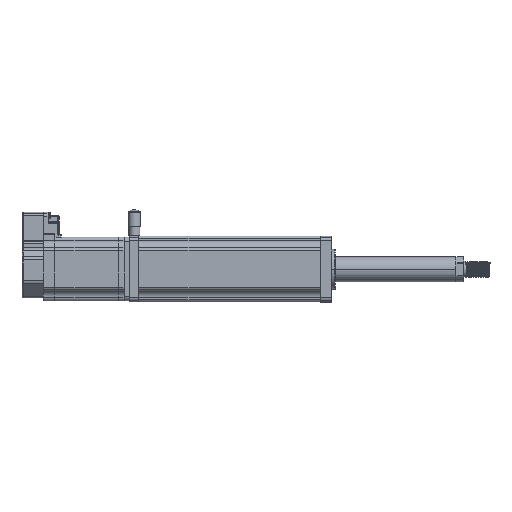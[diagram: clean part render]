
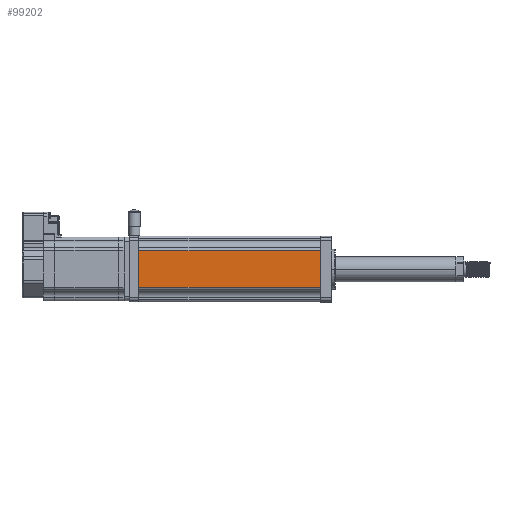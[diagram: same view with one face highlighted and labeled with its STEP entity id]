
A CAD part, front view. The second image highlights one B-rep face of the part: STEP entity #99202.
In plain terms, the highlighted planar face has unit normal (0, -1, 0).
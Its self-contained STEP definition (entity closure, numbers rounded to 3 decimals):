
#97323 = PLANE('',#97324);
#97324 = AXIS2_PLACEMENT_3D('',#97325,#97326,#97327);
#97325 = CARTESIAN_POINT('',(604.,20.655,
    145.431));
#97326 = DIRECTION('',(-1.,0.,0.));
#97327 = DIRECTION('',(0.,-1.,0.));
#97384 = PLANE('',#97385);
#97385 = AXIS2_PLACEMENT_3D('',#97386,#97387,#97388);
#97386 = CARTESIAN_POINT('',(764.,20.655,
    145.431));
#97387 = DIRECTION('',(-1.,0.,0.));
#97388 = DIRECTION('',(0.,-1.,0.));
#97766 = VERTEX_POINT('',#97767);
#97767 = CARTESIAN_POINT('',(764.,-37.345,
    158.431));
#97775 = CYLINDRICAL_SURFACE('',#97776,2.5);
#97776 = AXIS2_PLACEMENT_3D('',#97777,#97778,#97779);
#97777 = CARTESIAN_POINT('',(604.,-34.845,
    158.431));
#97778 = DIRECTION('',(-1.,0.,0.));
#97779 = DIRECTION('',(0.,-1.,0.));
#97794 = EDGE_CURVE('',#97766,#97795,#97797,.T.);
#97795 = VERTEX_POINT('',#97796);
#97796 = CARTESIAN_POINT('',(604.,-37.345,
    158.431));
#97797 = SURFACE_CURVE('',#97798,(#97802,#97809),.PCURVE_S1.);
#97798 = LINE('',#97799,#97800);
#97799 = CARTESIAN_POINT('',(684.,-37.345,
    158.431));
#97800 = VECTOR('',#97801,1.);
#97801 = DIRECTION('',(-1.,0.,0.));
#97802 = PCURVE('',#97775,#97803);
#97803 = DEFINITIONAL_REPRESENTATION('',(#97804),#97808);
#97804 = LINE('',#97805,#97806);
#97805 = CARTESIAN_POINT('',(6.283,-80.));
#97806 = VECTOR('',#97807,1.);
#97807 = DIRECTION('',(0.,1.));
#97808 = ( GEOMETRIC_REPRESENTATION_CONTEXT(2) 
PARAMETRIC_REPRESENTATION_CONTEXT() REPRESENTATION_CONTEXT('2D SPACE',''
  ) );
#97809 = PCURVE('',#97810,#97815);
#97810 = PLANE('',#97811);
#97811 = AXIS2_PLACEMENT_3D('',#97812,#97813,#97814);
#97812 = CARTESIAN_POINT('',(764.,-37.345,
    158.431));
#97813 = DIRECTION('',(0.,1.,0.));
#97814 = DIRECTION('',(-1.,0.,0.));
#97815 = DEFINITIONAL_REPRESENTATION('',(#97816),#97820);
#97816 = LINE('',#97817,#97818);
#97817 = CARTESIAN_POINT('',(80.,0.));
#97818 = VECTOR('',#97819,1.);
#97819 = DIRECTION('',(1.,0.));
#97820 = ( GEOMETRIC_REPRESENTATION_CONTEXT(2) 
PARAMETRIC_REPRESENTATION_CONTEXT() REPRESENTATION_CONTEXT('2D SPACE',''
  ) );
#97882 = VERTEX_POINT('',#97883);
#97883 = CARTESIAN_POINT('',(604.,-37.345,
    190.431));
#97891 = CYLINDRICAL_SURFACE('',#97892,2.5);
#97892 = AXIS2_PLACEMENT_3D('',#97893,#97894,#97895);
#97893 = CARTESIAN_POINT('',(764.,-34.845,
    190.431));
#97894 = DIRECTION('',(1.,0.,0.));
#97895 = DIRECTION('',(0.,-1.,0.));
#97914 = EDGE_CURVE('',#97882,#97915,#97917,.T.);
#97915 = VERTEX_POINT('',#97916);
#97916 = CARTESIAN_POINT('',(764.,-37.345,
    190.431));
#97917 = SURFACE_CURVE('',#97918,(#97922,#97929),.PCURVE_S1.);
#97918 = LINE('',#97919,#97920);
#97919 = CARTESIAN_POINT('',(684.,-37.345,
    190.431));
#97920 = VECTOR('',#97921,1.);
#97921 = DIRECTION('',(1.,0.,0.));
#97922 = PCURVE('',#97891,#97923);
#97923 = DEFINITIONAL_REPRESENTATION('',(#97924),#97928);
#97924 = LINE('',#97925,#97926);
#97925 = CARTESIAN_POINT('',(6.283,-80.));
#97926 = VECTOR('',#97927,1.);
#97927 = DIRECTION('',(0.,1.));
#97928 = ( GEOMETRIC_REPRESENTATION_CONTEXT(2) 
PARAMETRIC_REPRESENTATION_CONTEXT() REPRESENTATION_CONTEXT('2D SPACE',''
  ) );
#97929 = PCURVE('',#97810,#97930);
#97930 = DEFINITIONAL_REPRESENTATION('',(#97931),#97935);
#97931 = LINE('',#97932,#97933);
#97932 = CARTESIAN_POINT('',(80.,32.));
#97933 = VECTOR('',#97934,1.);
#97934 = DIRECTION('',(-1.,0.));
#97935 = ( GEOMETRIC_REPRESENTATION_CONTEXT(2) 
PARAMETRIC_REPRESENTATION_CONTEXT() REPRESENTATION_CONTEXT('2D SPACE',''
  ) );
#98638 = EDGE_CURVE('',#97915,#97766,#98639,.T.);
#98639 = SURFACE_CURVE('',#98640,(#98644,#98651),.PCURVE_S1.);
#98640 = LINE('',#98641,#98642);
#98641 = CARTESIAN_POINT('',(764.,-37.345,
    174.431));
#98642 = VECTOR('',#98643,1.);
#98643 = DIRECTION('',(0.,0.,-1.));
#98644 = PCURVE('',#97384,#98645);
#98645 = DEFINITIONAL_REPRESENTATION('',(#98646),#98650);
#98646 = LINE('',#98647,#98648);
#98647 = CARTESIAN_POINT('',(58.,29.));
#98648 = VECTOR('',#98649,1.);
#98649 = DIRECTION('',(0.,-1.));
#98650 = ( GEOMETRIC_REPRESENTATION_CONTEXT(2) 
PARAMETRIC_REPRESENTATION_CONTEXT() REPRESENTATION_CONTEXT('2D SPACE',''
  ) );
#98651 = PCURVE('',#97810,#98652);
#98652 = DEFINITIONAL_REPRESENTATION('',(#98653),#98657);
#98653 = LINE('',#98654,#98655);
#98654 = CARTESIAN_POINT('',(0.,16.));
#98655 = VECTOR('',#98656,1.);
#98656 = DIRECTION('',(0.,-1.));
#98657 = ( GEOMETRIC_REPRESENTATION_CONTEXT(2) 
PARAMETRIC_REPRESENTATION_CONTEXT() REPRESENTATION_CONTEXT('2D SPACE',''
  ) );
#98937 = EDGE_CURVE('',#97795,#97882,#98938,.T.);
#98938 = SURFACE_CURVE('',#98939,(#98943,#98950),.PCURVE_S1.);
#98939 = LINE('',#98940,#98941);
#98940 = CARTESIAN_POINT('',(604.,-37.345,
    174.431));
#98941 = VECTOR('',#98942,1.);
#98942 = DIRECTION('',(0.,0.,1.));
#98943 = PCURVE('',#97323,#98944);
#98944 = DEFINITIONAL_REPRESENTATION('',(#98945),#98949);
#98945 = LINE('',#98946,#98947);
#98946 = CARTESIAN_POINT('',(58.,29.));
#98947 = VECTOR('',#98948,1.);
#98948 = DIRECTION('',(0.,1.));
#98949 = ( GEOMETRIC_REPRESENTATION_CONTEXT(2) 
PARAMETRIC_REPRESENTATION_CONTEXT() REPRESENTATION_CONTEXT('2D SPACE',''
  ) );
#98950 = PCURVE('',#97810,#98951);
#98951 = DEFINITIONAL_REPRESENTATION('',(#98952),#98956);
#98952 = LINE('',#98953,#98954);
#98953 = CARTESIAN_POINT('',(160.,16.));
#98954 = VECTOR('',#98955,1.);
#98955 = DIRECTION('',(0.,1.));
#98956 = ( GEOMETRIC_REPRESENTATION_CONTEXT(2) 
PARAMETRIC_REPRESENTATION_CONTEXT() REPRESENTATION_CONTEXT('2D SPACE',''
  ) );
#99202 = ADVANCED_FACE('',(#99203),#97810,.F.);
#99203 = FACE_BOUND('',#99204,.T.);
#99204 = EDGE_LOOP('',(#99205,#99206,#99207,#99208));
#99205 = ORIENTED_EDGE('',*,*,#97794,.F.);
#99206 = ORIENTED_EDGE('',*,*,#98638,.F.);
#99207 = ORIENTED_EDGE('',*,*,#97914,.F.);
#99208 = ORIENTED_EDGE('',*,*,#98937,.F.);
